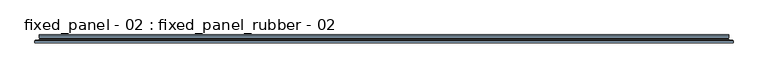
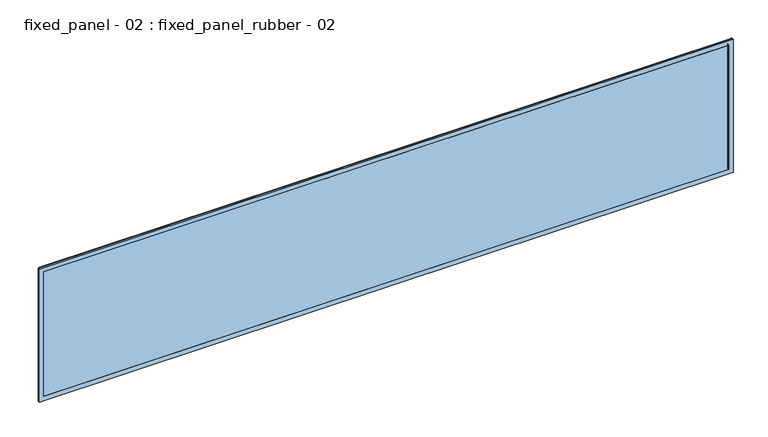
"""IFC4 building model written with IfcOpenShell, lengths in millimetres: window geometry, fixed_panel - 02 : fixed_panel_rubber - 02."""

from ifc_helpers import new_model, si_unit, frame, origin, place, context, project, spatial, polyline, ellipse_curve, outline, extrude, faceted_brep, source, transform, mapped, element, save
from ifc_brep_helpers import plane_surface, cylinder_surface, advanced_brep


def fixed_panel_02_fixed_panel_rubber_02_6457a62b(model_context):
    return source(origin(), model_context, "Body", "SolidModel", [
        advanced_brep(
        [(1510.0, -27.9878211, 560.0), (1515.0, -22.9878211, 565.0), (1515.0, -22.9878211, -25.0), (1510.0, -27.9878211, -20.0), (1524.9976779, -22.9878211, -34.9976779), (-1524.9976779, -22.9878211, -34.9976779), (-1524.9976779, -22.9878211, 574.9976779), (1524.9976779, -22.9878211, 574.9976779), (-1515.0, -22.9878211, 565.0), (-1515.0, -22.9878211, -25.0), (-1510.0, -27.9878211, -20.0), (1510.0, -34.0, 560.0), (1510.0, -34.0, -20.0), (-1510.0, -34.0, -20.0), (1529.9933535, -34.0, 579.9933535), (-1529.9933535, -34.0, 579.9933535), (-1529.9933535, -34.0, -39.9933535), (1529.9933535, -34.0, -39.9933535), (-1510.0, -34.0, 560.0), (1529.9933535, -27.9834967, 579.9933535), (1529.9933535, -27.9834967, -39.9933535), (-1529.9933535, -27.9834967, -39.9933535), (-1510.0, -27.9878211, 560.0), (-1529.9933535, -27.9834967, 579.9933535)],
        [
            (0, 1, ellipse_curve(frame((1515.0, -27.9878211, 565.0), z_axis=(0.7071067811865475, 0.0, -0.7071067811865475), x_axis=(0.7071067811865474, 0.0, 0.7071067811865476)), 7.0710678, 5.0)),
            (1, 2),
            (2, 3, ellipse_curve(frame((1515.0, -27.9878211, -25.0), z_axis=(0.7071067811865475, 0.0, 0.7071067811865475), x_axis=(-0.7071067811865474, 0.0, 0.7071067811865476)), 7.0710678, 5.0)),
            (3, 0),
            (4, 5),
            (5, 6),
            (6, 7),
            (7, 4),
            (1, 8),
            (8, 9),
            (9, 2),
            (9, 10, ellipse_curve(frame((-1515.0, -27.9878211, -25.0), z_axis=(0.7071067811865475, 0.0, -0.7071067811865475), x_axis=(0.7071067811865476, 0.0, 0.7071067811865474)), 7.0710678, 5.0)),
            (10, 3),
            (11, 0),
            (3, 12),
            (12, 11),
            (10, 13),
            (13, 12),
            (14, 15),
            (15, 16),
            (16, 17),
            (17, 14),
            (13, 18),
            (18, 11),
            (19, 14),
            (17, 20),
            (20, 19),
            (16, 21),
            (21, 20),
            (7, 19, ellipse_curve(frame((1524.9976779, -27.9834967, 574.9976779), z_axis=(0.7071067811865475, 0.0, -0.7071067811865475), x_axis=(0.7071067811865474, 0.0, 0.7071067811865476)), 7.0649521, 4.9956756)),
            (20, 4, ellipse_curve(frame((1524.9976779, -27.9834967, -34.9976779), z_axis=(0.7071067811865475, 0.0, 0.7071067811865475), x_axis=(-0.7071067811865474, 0.0, 0.7071067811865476)), 7.0649521, 4.9956756)),
            (21, 5, ellipse_curve(frame((-1524.9976779, -27.9834967, -34.9976779), z_axis=(0.7071067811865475, 0.0, -0.7071067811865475), x_axis=(0.7071067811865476, 0.0, 0.7071067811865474)), 7.0649521, 4.9956756)),
            (8, 22, ellipse_curve(frame((-1515.0, -27.9878211, 565.0), z_axis=(-0.7071067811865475, 0.0, -0.7071067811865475), x_axis=(0.7071067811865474, 0.0, -0.7071067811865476)), 7.0710678, 5.0)),
            (22, 10),
            (22, 18),
            (15, 23),
            (23, 21),
            (23, 6, ellipse_curve(frame((-1524.9976779, -27.9834967, 574.9976779), z_axis=(-0.7071067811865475, 0.0, -0.7071067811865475), x_axis=(0.7071067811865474, 0.0, -0.7071067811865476)), 7.0649521, 4.9956756)),
            (0, 22),
            (19, 23),
        ],
        [
            cylinder_surface(frame((1515.0, -27.9878211, 560.0), z_axis=(0.0, 0.0, 1.0), x_axis=(1.0, 0.0, 0.0)), 5.0),
            plane_surface(frame((-1524.9976779, -22.9878211, 574.9976779), z_axis=(0.0, 1.0, 0.0), x_axis=(1.0, 0.0, 0.0))),
            cylinder_surface(frame((1510.0, -27.9878211, -25.0), z_axis=(1.0, 0.0, 0.0), x_axis=(0.0, 0.0, -1.0)), 5.0),
            plane_surface(frame((1510.0, -27.9878211, 560.0), z_axis=(-1.0, 0.0, 0.0), x_axis=(0.0, 0.0, -1.0))),
            plane_surface(frame((1510.0, -27.9878211, -20.0), z_axis=(0.0, 0.0, 1.0), x_axis=(-1.0, 0.0, 0.0))),
            plane_surface(frame((-1510.0, -34.0, 560.0), z_axis=(0.0, -1.0, 0.0), x_axis=(1.0, 0.0, 0.0))),
            plane_surface(frame((1529.9933535, -34.0, 579.9933535), z_axis=(1.0, 0.0, 0.0), x_axis=(0.0, 0.0, -1.0))),
            plane_surface(frame((1529.9933535, -34.0, -39.9933535), z_axis=(0.0, 0.0, -1.0), x_axis=(-1.0, 0.0, 0.0))),
            cylinder_surface(frame((1524.9976779, -27.9834967, 560.0), z_axis=(0.0, 0.0, 1.0), x_axis=(1.0, 0.0, 0.0)), 4.9956756),
            cylinder_surface(frame((1510.0, -27.9834967, -34.9976779), z_axis=(1.0, 0.0, 0.0), x_axis=(0.0, 0.0, -1.0)), 4.9956756),
            cylinder_surface(frame((-1515.0, -27.9878211, -20.0), z_axis=(0.0, 0.0, -1.0), x_axis=(-1.0, 0.0, 0.0)), 5.0),
            plane_surface(frame((-1510.0, -27.9878211, -20.0), z_axis=(1.0, 0.0, 0.0), x_axis=(0.0, 0.0, 1.0))),
            plane_surface(frame((-1529.9933535, -34.0, -39.9933535), z_axis=(-1.0, 0.0, 0.0), x_axis=(0.0, 0.0, 1.0))),
            cylinder_surface(frame((-1524.9976779, -27.9834967, -20.0), z_axis=(0.0, 0.0, -1.0), x_axis=(-1.0, 0.0, 0.0)), 4.9956756),
            cylinder_surface(frame((-1510.0, -27.9878211, 565.0), z_axis=(-1.0, 0.0, 0.0), x_axis=(0.0, 0.0, 1.0)), 5.0),
            plane_surface(frame((-1510.0, -27.9878211, 560.0), z_axis=(0.0, 0.0, -1.0), x_axis=(1.0, 0.0, 0.0))),
            plane_surface(frame((-1529.9933535, -34.0, 579.9933535), z_axis=(0.0, 0.0, 1.0), x_axis=(1.0, 0.0, 0.0))),
            cylinder_surface(frame((-1510.0, -27.9834967, 574.9976779), z_axis=(-1.0, 0.0, 0.0), x_axis=(0.0, 0.0, 1.0)), 4.9956756),
        ],
        [
            (0, [[1, 2, 3, 4]]),
            (1, [[5, 6, 7, 8], [9, 10, 11, -2]]),
            (2, [[-3, -11, 12, 13]]),
            (3, [[14, -4, 15, 16]]),
            (4, [[-15, -13, 17, 18]]),
            (5, [[19, 20, 21, 22], [-18, 23, 24, -16]]),
            (6, [[25, -22, 26, 27]]),
            (7, [[-26, -21, 28, 29]]),
            (8, [[30, -27, 31, -8]]),
            (9, [[-31, -29, 32, -5]]),
            (10, [[-12, -10, 33, 34]]),
            (11, [[-17, -34, 35, -23]]),
            (12, [[-28, -20, 36, 37]]),
            (13, [[-32, -37, 38, -6]]),
            (14, [[-33, -9, -1, 39]]),
            (15, [[-35, -39, -14, -24]]),
            (16, [[-36, -19, -25, 40]]),
            (17, [[-38, -40, -30, -7]]),
        ],
    ),
        faceted_brep([(1484.0, -26.0, 534.0), (1484.0, -6.0, 534.0), (1484.0, -6.0, 6.0), (1484.0, -26.0, 6.0), (1510.0, -6.0, -20.0), (-1510.0, -6.0, -20.0), (-1510.0, -6.0, 560.0), (1510.0, -6.0, 560.0), (-1484.0, -6.0, 534.0), (-1484.0, -6.0, 6.0), (-1484.0, -26.0, 6.0), (1510.0, -26.0, 560.0), (-1510.0, -26.0, 560.0), (-1510.0, -26.0, -20.0), (1510.0, -26.0, -20.0), (-1484.0, -26.0, 534.0), (1510.0, -18.8, 560.0), (1510.0, -18.8, -20.0), (-1510.0, -18.8, -20.0), (-1510.0, -18.8, 560.0), (1499.0, -18.8, 549.0), (-1499.0, -18.8, 549.0), (-1499.0, -18.8, -9.0), (1499.0, -18.8, -9.0), (1499.0, -13.2, 549.0), (1499.0, -13.2, -9.0), (-1499.0, -13.2, -9.0), (1510.0, -13.2, 560.0), (-1510.0, -13.2, 560.0), (-1510.0, -13.2, -20.0), (1510.0, -13.2, -20.0), (-1499.0, -13.2, 549.0)], [[[0, 1, 2, 3]], [[4, 5, 6, 7], [1, 8, 9, 2]], [[3, 2, 9, 10]], [[11, 12, 13, 14], [3, 10, 15, 0]], [[16, 11, 14, 17]], [[17, 14, 13, 18]], [[17, 18, 19, 16], [20, 21, 22, 23]], [[24, 20, 23, 25]], [[25, 23, 22, 26]], [[27, 28, 29, 30], [25, 26, 31, 24]], [[7, 27, 30, 4]], [[4, 30, 29, 5]], [[10, 9, 8, 15]], [[18, 13, 12, 19]], [[26, 22, 21, 31]], [[5, 29, 28, 6]], [[15, 8, 1, 0]], [[19, 12, 11, 16]], [[31, 21, 20, 24]], [[6, 28, 27, 7]]]),
        extrude(outline(polyline([(1510.0, -34.0), (-1510.0, -34.0), (-1510.0, -26.0), (1510.0, -26.0), (1510.0, -34.0)])), frame((0.0, 0.0, -20.0), z_axis=(0.0, 0.0, 1.0), x_axis=(1.0, 0.0, 0.0)), (0.0, 0.0, 1.0), 580.0),
        extrude(outline(polyline([(1510.0, -6.0), (-1510.0, -6.0), (-1510.0, 0.0), (1510.0, 0.0), (1510.0, -6.0)])), frame((0.0, 0.0, -20.0), z_axis=(0.0, 0.0, 1.0), x_axis=(1.0, 0.0, 0.0)), (0.0, 0.0, 1.0), 580.0),
    ])


if __name__ == "__main__":
    model = new_model("IFC4")
    model_context = context("Model", 3, world=origin())
    ifc_project = project(units=[si_unit("LENGTHUNIT", "METRE", prefix="MILLI")], contexts=[model_context])
    site = spatial("IfcSite", under=ifc_project)
    building = spatial("IfcBuilding", under=site)
    placement = place(None, origin())
    fixed_panel_02_fixed_panel_rubber_02_shape = fixed_panel_02_fixed_panel_rubber_02_6457a62b(model_context)
    element("IfcWindow", 1, ObjectType="fixed_panel - 02 : fixed_panel_rubber - 02", at=placement, inside=building, context=model_context, shape_type="MappedRepresentation", body=[
        mapped(fixed_panel_02_fixed_panel_rubber_02_shape, transform((0.0, 0.0, 0.0), x_axis=(1.0, 0.0, 0.0), y_axis=(0.0, 1.0, 0.0), z_axis=(0.0, 0.0, 1.0))),
    ])
    save(model, "model.ifc")
